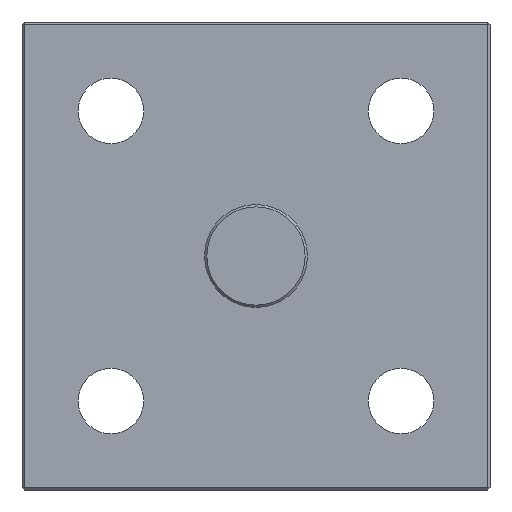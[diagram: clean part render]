
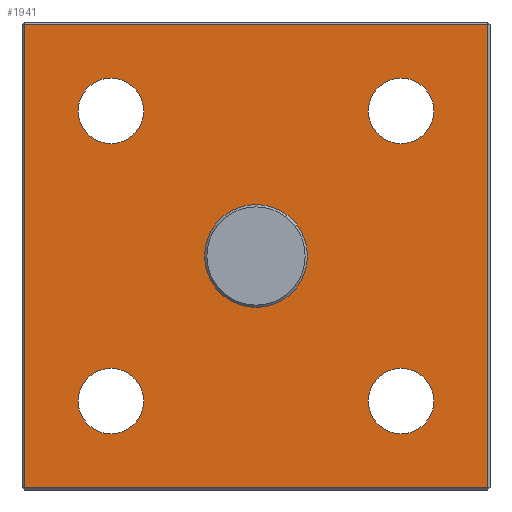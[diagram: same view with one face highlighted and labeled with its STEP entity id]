
A CAD part, left-side view. The second image highlights one B-rep face of the part: STEP entity #1941.
In plain terms, the highlighted planar face has unit normal (-1, 0, 0).
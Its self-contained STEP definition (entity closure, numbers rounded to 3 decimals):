
#36 = EDGE_CURVE ( 'NONE', #1369, #1852, #508, .T. ) ;
#45 = CARTESIAN_POINT ( 'NONE',  ( -9.5, 31., 31. ) ) ;
#62 = CARTESIAN_POINT ( 'NONE',  ( -9.5, 0., 0. ) ) ;
#86 = ORIENTED_EDGE ( 'NONE', *, *, #1382, .T. ) ;
#124 = CARTESIAN_POINT ( 'NONE',  ( -9.5, 49.5, 49.5 ) ) ;
#141 = EDGE_LOOP ( 'NONE', ( #1204, #86 ) ) ;
#150 = DIRECTION ( 'NONE',  ( 0., 0., -1. ) ) ;
#155 = PLANE ( 'NONE',  #2295 ) ;
#160 = CARTESIAN_POINT ( 'NONE',  ( -9.5, 0., 49.5 ) ) ;
#174 = EDGE_CURVE ( 'NONE', #2315, #1355, #292, .T. ) ;
#176 = DIRECTION ( 'NONE',  ( 1., 0., 0. ) ) ;
#195 = FACE_BOUND ( 'NONE', #1930, .T. ) ;
#223 = DIRECTION ( 'NONE',  ( 1., 0., 0. ) ) ;
#279 = CARTESIAN_POINT ( 'NONE',  ( -9.5, 0., -11. ) ) ;
#285 = CARTESIAN_POINT ( 'NONE',  ( -9.5, 31., -38. ) ) ;
#290 = AXIS2_PLACEMENT_3D ( 'NONE', #2346, #1761, #2264 ) ;
#292 = CIRCLE ( 'NONE', #2406, 11. ) ;
#313 = ORIENTED_EDGE ( 'NONE', *, *, #868, .T. ) ;
#322 = EDGE_CURVE ( 'NONE', #1852, #1892, #375, .T. ) ;
#375 = LINE ( 'NONE', #1293, #851 ) ;
#378 = AXIS2_PLACEMENT_3D ( 'NONE', #2576, #1484, #700 ) ;
#388 = DIRECTION ( 'NONE',  ( 1., 0., 0. ) ) ;
#396 = ORIENTED_EDGE ( 'NONE', *, *, #322, .T. ) ;
#440 = ORIENTED_EDGE ( 'NONE', *, *, #36, .T. ) ;
#482 = CARTESIAN_POINT ( 'NONE',  ( -9.5, 31., 24. ) ) ;
#508 = LINE ( 'NONE', #160, #2574 ) ;
#611 = DIRECTION ( 'NONE',  ( 1., 0., 0. ) ) ;
#662 = CIRCLE ( 'NONE', #848, 7. ) ;
#686 = DIRECTION ( 'NONE',  ( 1., 0., 0. ) ) ;
#689 = DIRECTION ( 'NONE',  ( 0., 0., 1. ) ) ;
#700 = DIRECTION ( 'NONE',  ( 0., 0., -1. ) ) ;
#706 = CARTESIAN_POINT ( 'NONE',  ( -9.5, 31., 31. ) ) ;
#745 = EDGE_CURVE ( 'NONE', #1453, #1225, #843, .T. ) ;
#757 = EDGE_CURVE ( 'NONE', #1355, #2315, #1931, .T. ) ;
#762 = VERTEX_POINT ( 'NONE', #2341 ) ;
#789 = AXIS2_PLACEMENT_3D ( 'NONE', #45, #1150, #2428 ) ;
#816 = LINE ( 'NONE', #1138, #1574 ) ;
#838 = ORIENTED_EDGE ( 'NONE', *, *, #1250, .T. ) ;
#843 = CIRCLE ( 'NONE', #2498, 7. ) ;
#848 = AXIS2_PLACEMENT_3D ( 'NONE', #2039, #388, #1444 ) ;
#850 = DIRECTION ( 'NONE',  ( 0., 1., 0. ) ) ;
#851 = VECTOR ( 'NONE', #150, 1000. ) ;
#868 = EDGE_CURVE ( 'NONE', #1937, #1530, #1948, .T. ) ;
#872 = ORIENTED_EDGE ( 'NONE', *, *, #2524, .T. ) ;
#934 = EDGE_CURVE ( 'NONE', #1168, #762, #1347, .T. ) ;
#937 = CARTESIAN_POINT ( 'NONE',  ( -9.5, -31., 24. ) ) ;
#994 = AXIS2_PLACEMENT_3D ( 'NONE', #1187, #611, #2379 ) ;
#995 = DIRECTION ( 'NONE',  ( 1., 0., 0. ) ) ;
#1049 = FACE_BOUND ( 'NONE', #1836, .T. ) ;
#1074 = ORIENTED_EDGE ( 'NONE', *, *, #1308, .T. ) ;
#1075 = AXIS2_PLACEMENT_3D ( 'NONE', #2124, #176, #1198 ) ;
#1086 = CARTESIAN_POINT ( 'NONE',  ( -9.5, -31., -24. ) ) ;
#1091 = CARTESIAN_POINT ( 'NONE',  ( -9.5, -31., 31. ) ) ;
#1107 = CIRCLE ( 'NONE', #290, 7. ) ;
#1109 = CARTESIAN_POINT ( 'NONE',  ( -9.5, -49.5, -49.5 ) ) ;
#1138 = CARTESIAN_POINT ( 'NONE',  ( -9.5, -49.5, 0. ) ) ;
#1150 = DIRECTION ( 'NONE',  ( 1., 0., 0. ) ) ;
#1168 = VERTEX_POINT ( 'NONE', #937 ) ;
#1187 = CARTESIAN_POINT ( 'NONE',  ( -9.5, 0., 0. ) ) ;
#1198 = DIRECTION ( 'NONE',  ( 0., 0., -1. ) ) ;
#1204 = ORIENTED_EDGE ( 'NONE', *, *, #745, .T. ) ;
#1223 = EDGE_CURVE ( 'NONE', #1818, #1615, #662, .T. ) ;
#1225 = VERTEX_POINT ( 'NONE', #2377 ) ;
#1245 = CIRCLE ( 'NONE', #1279, 7. ) ;
#1250 = EDGE_CURVE ( 'NONE', #1530, #1937, #1617, .T. ) ;
#1279 = AXIS2_PLACEMENT_3D ( 'NONE', #1091, #686, #2069 ) ;
#1293 = CARTESIAN_POINT ( 'NONE',  ( -9.5, 49.5, 0. ) ) ;
#1308 = EDGE_CURVE ( 'NONE', #1615, #1818, #1107, .T. ) ;
#1347 = CIRCLE ( 'NONE', #2553, 7. ) ;
#1355 = VERTEX_POINT ( 'NONE', #1667 ) ;
#1367 = ORIENTED_EDGE ( 'NONE', *, *, #934, .T. ) ;
#1369 = VERTEX_POINT ( 'NONE', #1449 ) ;
#1382 = EDGE_CURVE ( 'NONE', #1225, #1453, #1719, .T. ) ;
#1387 = LINE ( 'NONE', #2223, #1599 ) ;
#1415 = VERTEX_POINT ( 'NONE', #1109 ) ;
#1420 = ORIENTED_EDGE ( 'NONE', *, *, #1967, .T. ) ;
#1444 = DIRECTION ( 'NONE',  ( 0., 0., -1. ) ) ;
#1449 = CARTESIAN_POINT ( 'NONE',  ( -9.5, -49.5, 49.5 ) ) ;
#1453 = VERTEX_POINT ( 'NONE', #482 ) ;
#1462 = EDGE_LOOP ( 'NONE', ( #396, #1927, #872, #440 ) ) ;
#1472 = FACE_BOUND ( 'NONE', #141, .T. ) ;
#1484 = DIRECTION ( 'NONE',  ( 1., 0., 0. ) ) ;
#1495 = CARTESIAN_POINT ( 'NONE',  ( -9.5, -31., -38. ) ) ;
#1530 = VERTEX_POINT ( 'NONE', #1495 ) ;
#1536 = EDGE_LOOP ( 'NONE', ( #838, #313 ) ) ;
#1551 = FACE_BOUND ( 'NONE', #2422, .T. ) ;
#1555 = DIRECTION ( 'NONE',  ( 1., 0., 0. ) ) ;
#1574 = VECTOR ( 'NONE', #689, 1000. ) ;
#1599 = VECTOR ( 'NONE', #2152, 1000. ) ;
#1615 = VERTEX_POINT ( 'NONE', #285 ) ;
#1617 = CIRCLE ( 'NONE', #378, 7. ) ;
#1620 = ORIENTED_EDGE ( 'NONE', *, *, #1223, .T. ) ;
#1648 = DIRECTION ( 'NONE',  ( 0., 0., -1. ) ) ;
#1667 = CARTESIAN_POINT ( 'NONE',  ( -9.5, 0., 11. ) ) ;
#1686 = DIRECTION ( 'NONE',  ( 1., 0., 0. ) ) ;
#1719 = CIRCLE ( 'NONE', #789, 7. ) ;
#1725 = ORIENTED_EDGE ( 'NONE', *, *, #757, .T. ) ;
#1761 = DIRECTION ( 'NONE',  ( 1., 0., 0. ) ) ;
#1818 = VERTEX_POINT ( 'NONE', #2380 ) ;
#1836 = EDGE_LOOP ( 'NONE', ( #2426, #1725 ) ) ;
#1852 = VERTEX_POINT ( 'NONE', #124 ) ;
#1865 = FACE_OUTER_BOUND ( 'NONE', #1462, .T. ) ;
#1892 = VERTEX_POINT ( 'NONE', #2100 ) ;
#1927 = ORIENTED_EDGE ( 'NONE', *, *, #2016, .T. ) ;
#1930 = EDGE_LOOP ( 'NONE', ( #1367, #1420 ) ) ;
#1931 = CIRCLE ( 'NONE', #994, 11. ) ;
#1937 = VERTEX_POINT ( 'NONE', #1086 ) ;
#1941 = ADVANCED_FACE ( 'NONE', ( #1865, #1049, #2254, #195, #1472, #1551 ), #155, .F. ) ;
#1948 = CIRCLE ( 'NONE', #1075, 7. ) ;
#1967 = EDGE_CURVE ( 'NONE', #762, #1168, #1245, .T. ) ;
#2016 = EDGE_CURVE ( 'NONE', #1892, #1415, #1387, .T. ) ;
#2039 = CARTESIAN_POINT ( 'NONE',  ( -9.5, 31., -31. ) ) ;
#2050 = DIRECTION ( 'NONE',  ( 0., 0., -1. ) ) ;
#2069 = DIRECTION ( 'NONE',  ( 0., 0., -1. ) ) ;
#2100 = CARTESIAN_POINT ( 'NONE',  ( -9.5, 49.5, -49.5 ) ) ;
#2101 = CARTESIAN_POINT ( 'NONE',  ( -9.5, 0., 0. ) ) ;
#2124 = CARTESIAN_POINT ( 'NONE',  ( -9.5, -31., -31. ) ) ;
#2152 = DIRECTION ( 'NONE',  ( 0., -1., 0. ) ) ;
#2170 = CARTESIAN_POINT ( 'NONE',  ( -9.5, -31., 31. ) ) ;
#2223 = CARTESIAN_POINT ( 'NONE',  ( -9.5, 0., -49.5 ) ) ;
#2254 = FACE_BOUND ( 'NONE', #1536, .T. ) ;
#2264 = DIRECTION ( 'NONE',  ( 0., 0., -1. ) ) ;
#2265 = DIRECTION ( 'NONE',  ( 0., 0., -1. ) ) ;
#2295 = AXIS2_PLACEMENT_3D ( 'NONE', #62, #1555, #1648 ) ;
#2315 = VERTEX_POINT ( 'NONE', #279 ) ;
#2341 = CARTESIAN_POINT ( 'NONE',  ( -9.5, -31., 38. ) ) ;
#2346 = CARTESIAN_POINT ( 'NONE',  ( -9.5, 31., -31. ) ) ;
#2377 = CARTESIAN_POINT ( 'NONE',  ( -9.5, 31., 38. ) ) ;
#2379 = DIRECTION ( 'NONE',  ( 0., 0., -1. ) ) ;
#2380 = CARTESIAN_POINT ( 'NONE',  ( -9.5, 31., -24. ) ) ;
#2406 = AXIS2_PLACEMENT_3D ( 'NONE', #2101, #1686, #2482 ) ;
#2422 = EDGE_LOOP ( 'NONE', ( #1074, #1620 ) ) ;
#2426 = ORIENTED_EDGE ( 'NONE', *, *, #174, .T. ) ;
#2428 = DIRECTION ( 'NONE',  ( 0., 0., -1. ) ) ;
#2482 = DIRECTION ( 'NONE',  ( 0., 0., -1. ) ) ;
#2498 = AXIS2_PLACEMENT_3D ( 'NONE', #706, #995, #2265 ) ;
#2524 = EDGE_CURVE ( 'NONE', #1415, #1369, #816, .T. ) ;
#2553 = AXIS2_PLACEMENT_3D ( 'NONE', #2170, #223, #2050 ) ;
#2574 = VECTOR ( 'NONE', #850, 1000. ) ;
#2576 = CARTESIAN_POINT ( 'NONE',  ( -9.5, -31., -31. ) ) ;
